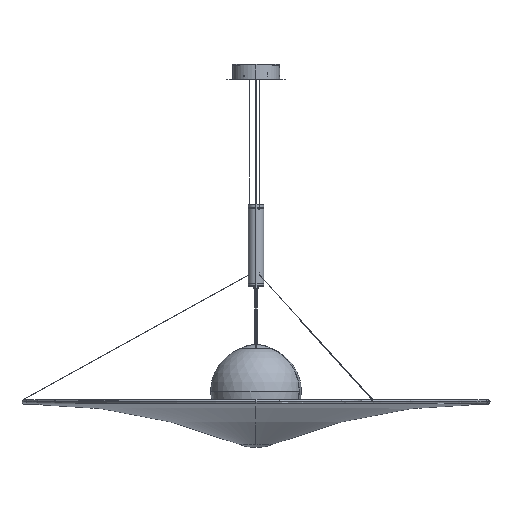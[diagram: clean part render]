
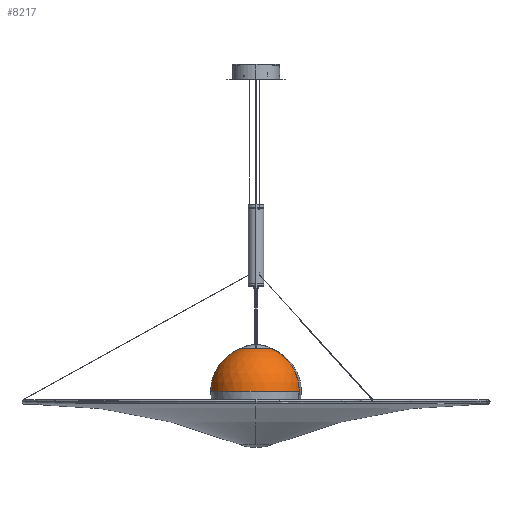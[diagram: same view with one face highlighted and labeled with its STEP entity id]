
A CAD part, top view. The second image highlights one B-rep face of the part: STEP entity #8217.
In plain terms, the highlighted spherical face has radius 175 mm.
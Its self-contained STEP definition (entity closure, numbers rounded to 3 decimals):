
#454 = EDGE_CURVE ( 'NONE', #15442, #10102, #15044, .T. ) ;
#1134 = CARTESIAN_POINT ( 'NONE',  ( -175., 0., 0. ) ) ;
#2470 = DIRECTION ( 'NONE',  ( 0., -1., 0. ) ) ;
#2607 = DIRECTION ( 'NONE',  ( -1., 0., 0. ) ) ;
#2801 = DIRECTION ( 'NONE',  ( 0., 1., 0. ) ) ;
#2882 = CARTESIAN_POINT ( 'NONE',  ( 58.503, 164.932, 0. ) ) ;
#3324 = DIRECTION ( 'NONE',  ( -1., 0., 0. ) ) ;
#4083 = EDGE_CURVE ( 'NONE', #12240, #18835, #19286, .T. ) ;
#4428 = CARTESIAN_POINT ( 'NONE',  ( 0., 0., 0. ) ) ;
#4597 = EDGE_CURVE ( 'NONE', #10109, #18835, #11682, .T. ) ;
#4780 = DIRECTION ( 'NONE',  ( -1., 0., 0. ) ) ;
#5347 = CARTESIAN_POINT ( 'NONE',  ( 0., 164.932, 0. ) ) ;
#5411 = EDGE_CURVE ( 'NONE', #15442, #12240, #10564, .T. ) ;
#5978 = AXIS2_PLACEMENT_3D ( 'NONE', #18923, #8196, #2607 ) ;
#6228 = FACE_OUTER_BOUND ( 'NONE', #22948, .T. ) ;
#6824 = CARTESIAN_POINT ( 'NONE',  ( 175., 0., 0. ) ) ;
#6863 = ORIENTED_EDGE ( 'NONE', *, *, #5411, .T. ) ;
#6919 = DIRECTION ( 'NONE',  ( 0., 1., 0. ) ) ;
#7929 = AXIS2_PLACEMENT_3D ( 'NONE', #17689, #2801, #8290 ) ;
#7989 = ORIENTED_EDGE ( 'NONE', *, *, #454, .F. ) ;
#8079 = CARTESIAN_POINT ( 'NONE',  ( 0., 0., 0. ) ) ;
#8196 = DIRECTION ( 'NONE',  ( 0., 0., -1. ) ) ;
#8217 = ADVANCED_FACE ( 'NONE', ( #6228 ), #22911, .T. ) ;
#8290 = DIRECTION ( 'NONE',  ( -1., 0., 0. ) ) ;
#10102 = VERTEX_POINT ( 'NONE', #6824 ) ;
#10109 = VERTEX_POINT ( 'NONE', #2882 ) ;
#10564 = CIRCLE ( 'NONE', #7929, 175. ) ;
#11586 = CARTESIAN_POINT ( 'NONE',  ( -58.503, 164.932, 0. ) ) ;
#11682 = CIRCLE ( 'NONE', #22370, 58.503 ) ;
#11922 = DIRECTION ( 'NONE',  ( 0., -1., 0. ) ) ;
#12240 = VERTEX_POINT ( 'NONE', #1134 ) ;
#14819 = CARTESIAN_POINT ( 'NONE',  ( 0., 0., -175. ) ) ;
#14836 = EDGE_CURVE ( 'NONE', #10109, #10102, #19172, .T. ) ;
#14877 = DIRECTION ( 'NONE',  ( 1., 0., 0. ) ) ;
#15044 = CIRCLE ( 'NONE', #19675, 175. ) ;
#15442 = VERTEX_POINT ( 'NONE', #14819 ) ;
#15929 = AXIS2_PLACEMENT_3D ( 'NONE', #4428, #11922, #4780 ) ;
#17689 = CARTESIAN_POINT ( 'NONE',  ( 0., 0., 0. ) ) ;
#18129 = ORIENTED_EDGE ( 'NONE', *, *, #4597, .F. ) ;
#18712 = DIRECTION ( 'NONE',  ( -1., 0., 0. ) ) ;
#18835 = VERTEX_POINT ( 'NONE', #11586 ) ;
#18860 = ORIENTED_EDGE ( 'NONE', *, *, #4083, .T. ) ;
#18923 = CARTESIAN_POINT ( 'NONE',  ( 0., 0., 0. ) ) ;
#19172 = CIRCLE ( 'NONE', #20693, 175. ) ;
#19286 = CIRCLE ( 'NONE', #5978, 175. ) ;
#19675 = AXIS2_PLACEMENT_3D ( 'NONE', #8079, #2470, #14877 ) ;
#19814 = CARTESIAN_POINT ( 'NONE',  ( 0., 0., 0. ) ) ;
#20693 = AXIS2_PLACEMENT_3D ( 'NONE', #19814, #21849, #18712 ) ;
#21849 = DIRECTION ( 'NONE',  ( 0., 0., -1. ) ) ;
#22278 = ORIENTED_EDGE ( 'NONE', *, *, #14836, .T. ) ;
#22370 = AXIS2_PLACEMENT_3D ( 'NONE', #5347, #6919, #3324 ) ;
#22911 = SPHERICAL_SURFACE ( 'NONE', #15929, 175. ) ;
#22948 = EDGE_LOOP ( 'NONE', ( #7989, #6863, #18860, #18129, #22278 ) ) ;
